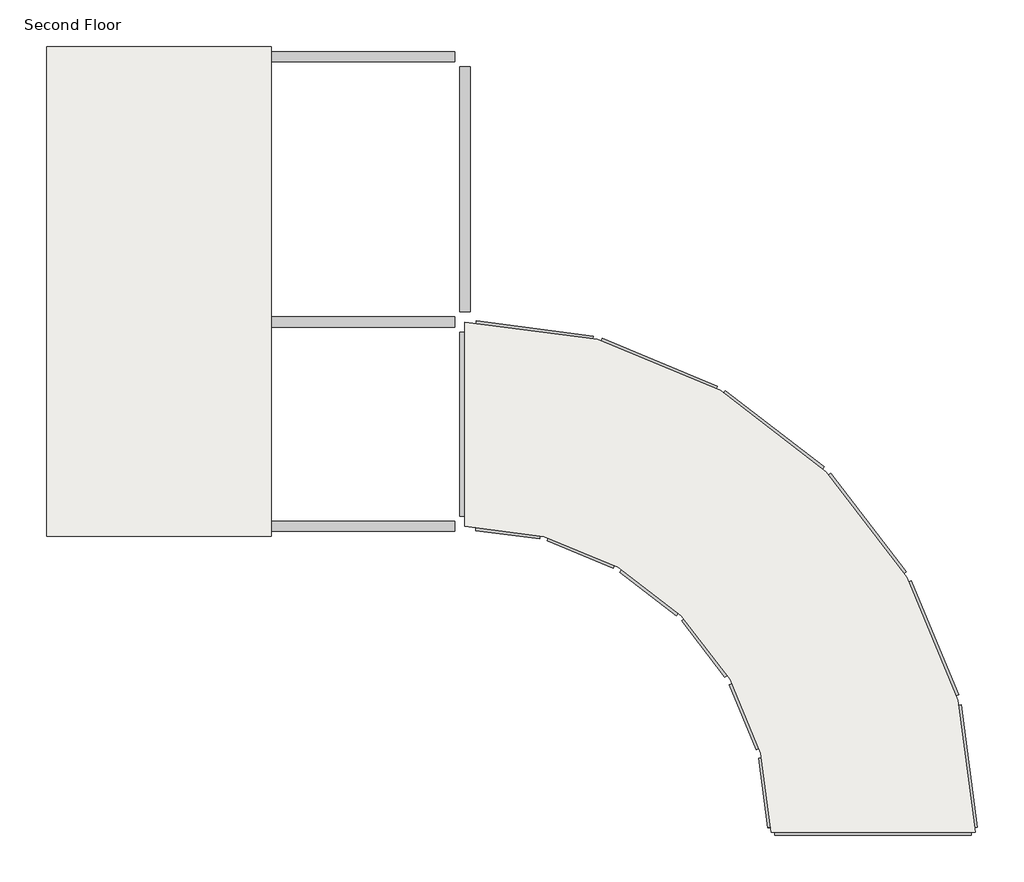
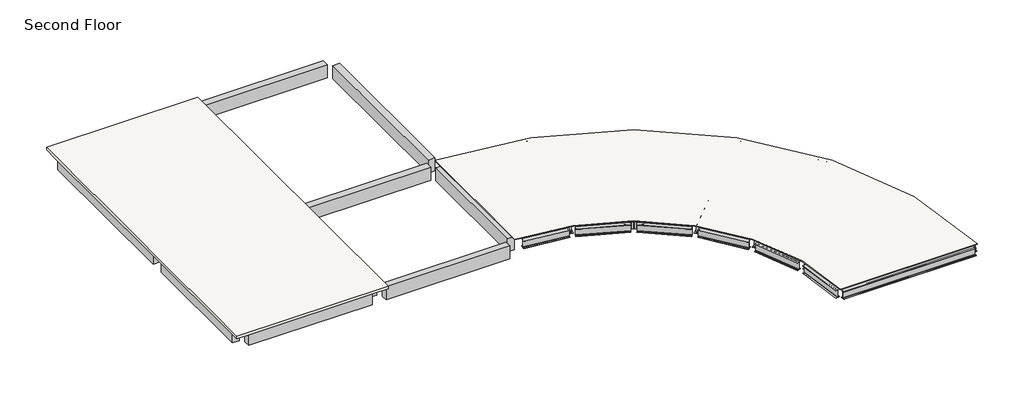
# One storey: 30 beams, 2 slabs.
"""IFC4 building model written with IfcOpenShell, lengths in millimetres."""

from ifc_helpers import new_model, si_unit, frame, origin, place, context, project, spatial, polyline, outline, extrude, faceted_brep, transform, mapped, element, save
from components import w_shapes_w14x30_259210d1, w_shapes_w14x30_ed609655, w_shapes_w14x30_53f6a439, w_shapes_w14x30_1f0b7ad3, w_shapes_w14x30_c194f466, w_shapes_w14x30_2e50e1af, w_shapes_w14x30_4de1113a, w_shapes_w14x30_27a744b6, w_shapes_w14x30_ed6d0ebe, w_shapes_w14x30_ff060446

model = new_model("IFC4")

# Units and contexts
model_context = context("Model", 3, world=origin())
ifc_project = project(units=[si_unit("LENGTHUNIT", "METRE", prefix="MILLI")], contexts=[model_context])

# Site, building, storey
site = spatial("IfcSite", under=ifc_project)
building = spatial("IfcBuilding", under=site)
storey = spatial("IfcBuildingStorey", under=building, Name="Second Floor", Elevation=3048.0)

# Beams
placement = place(None, origin())
element("IfcBeam", 1, ObjectType="Concrete-Rectangular Beam : 12 x 24", at=placement, inside=storey, context=model_context, shape_type="SweptSolid", body=[
    extrude(outline(polyline([(-20530.7327416, 10007.1181497), (-20530.7327416, 9702.3181497), (-26017.1327416, 9702.3181497), (-26017.1327416, 10007.1181497), (-20530.7327416, 10007.1181497)])), frame((0.0, 0.0, 2438.4), z_axis=(0.0, 0.0, 1.0), x_axis=(1.0, 0.0, 0.0)), (0.0, 0.0, 1.0), 609.6),
])
element("IfcBeam", 2, ObjectType="Concrete-Rectangular Beam : 12 x 24", at=placement, inside=storey, context=model_context, shape_type="SweptSolid", body=[
    extrude(outline(polyline([(-26626.7327416, 10007.1181497), (-26626.7327416, 9702.3181497), (-32113.1327416, 9702.3181497), (-32113.1327416, 10007.1181497), (-26626.7327416, 10007.1181497)])), frame((0.0, 0.0, 2438.4), z_axis=(0.0, 0.0, 1.0), x_axis=(1.0, 0.0, 0.0)), (0.0, 0.0, 1.0), 609.6),
])
element("IfcBeam", 3, ObjectType="Concrete-Rectangular Beam : 12 x 24", at=placement, inside=storey, context=model_context, shape_type="SweptSolid", body=[
    extrude(outline(polyline([(-20530.7327416, -4013.6818503), (-20530.7327416, -4318.4818503), (-26017.1327416, -4318.4818503), (-26017.1327416, -4013.6818503), (-20530.7327416, -4013.6818503)])), frame((0.0, 0.0, 2438.4), z_axis=(0.0, 0.0, 1.0), x_axis=(1.0, 0.0, 0.0)), (0.0, 0.0, 1.0), 609.6),
])
element("IfcBeam", 4, ObjectType="Concrete-Rectangular Beam : 12 x 24", at=placement, inside=storey, context=model_context, shape_type="SweptSolid", body=[
    extrude(outline(polyline([(-26626.7327416, -4013.6818503), (-26626.7327416, -4318.4818503), (-32113.1327416, -4318.4818503), (-32113.1327416, -4013.6818503), (-26626.7327416, -4013.6818503)])), frame((0.0, 0.0, 2438.4), z_axis=(0.0, 0.0, 1.0), x_axis=(1.0, 0.0, 0.0)), (0.0, 0.0, 1.0), 609.6),
])
element("IfcBeam", 5, ObjectType="Concrete-Rectangular Beam : 12 x 24", at=placement, inside=storey, context=model_context, shape_type="SweptSolid", body=[
    extrude(outline(polyline([(-20530.7327416, 2082.3181497), (-20530.7327416, 1777.5181497), (-26017.1327416, 1777.5181497), (-26017.1327416, 2082.3181497), (-20530.7327416, 2082.3181497)])), frame((0.0, 0.0, 2438.4), z_axis=(0.0, 0.0, 1.0), x_axis=(1.0, 0.0, 0.0)), (0.0, 0.0, 1.0), 609.6),
])
element("IfcBeam", 6, ObjectType="Concrete-Rectangular Beam : 12 x 24", at=placement, inside=storey, context=model_context, shape_type="SweptSolid", body=[
    extrude(outline(polyline([(-26626.7327416, 2082.3181497), (-26626.7327416, 1777.5181497), (-32113.1327416, 1777.5181497), (-32113.1327416, 2082.3181497), (-26626.7327416, 2082.3181497)])), frame((0.0, 0.0, 2438.4), z_axis=(0.0, 0.0, 1.0), x_axis=(1.0, 0.0, 0.0)), (0.0, 0.0, 1.0), 609.6),
])
element("IfcBeam", 7, ObjectType="Concrete-Rectangular Beam : 12 x 24", at=placement, inside=storey, context=model_context, shape_type="SweptSolid", body=[
    extrude(outline(polyline([(-20073.5327416, -3861.2818503), (-20378.3327416, -3861.2818503), (-20378.3327416, 1625.1181497), (-20073.5327416, 1625.1181497), (-20073.5327416, -3861.2818503)])), frame((0.0, 0.0, 2438.4), z_axis=(0.0, 0.0, 1.0), x_axis=(1.0, 0.0, 0.0)), (0.0, 0.0, 1.0), 609.6),
])
element("IfcBeam", 8, ObjectType="Concrete-Rectangular Beam : 12 x 24", at=placement, inside=storey, context=model_context, shape_type="SweptSolid", body=[
    extrude(outline(polyline([(-20073.5327416, 2234.7181497), (-20378.3327416, 2234.7181497), (-20378.3327416, 9549.9181497), (-20073.5327416, 9549.9181497), (-20073.5327416, 2234.7181497)])), frame((0.0, 0.0, 2438.4), z_axis=(0.0, 0.0, 1.0), x_axis=(1.0, 0.0, 0.0)), (0.0, 0.0, 1.0), 609.6),
])
element("IfcBeam", 9, ObjectType="Concrete-Rectangular Beam : 12 x 24", at=placement, inside=storey, context=model_context, shape_type="SweptSolid", body=[
    extrude(outline(polyline([(-26169.5327416, 2234.7181497), (-26474.3327416, 2234.7181497), (-26474.3327416, 9549.9181497), (-26169.5327416, 9549.9181497), (-26169.5327416, 2234.7181497)])), frame((0.0, 0.0, 2438.4), z_axis=(0.0, 0.0, 1.0), x_axis=(1.0, 0.0, 0.0)), (0.0, 0.0, 1.0), 609.6),
])
element("IfcBeam", 10, ObjectType="Concrete-Rectangular Beam : 12 x 24", at=placement, inside=storey, context=model_context, shape_type="SweptSolid", body=[
    extrude(outline(polyline([(-26169.5327416, -3861.2818503), (-26474.3327416, -3861.2818503), (-26474.3327416, 1625.1181497), (-26169.5327416, 1625.1181497), (-26169.5327416, -3861.2818503)])), frame((0.0, 0.0, 2438.4), z_axis=(0.0, 0.0, 1.0), x_axis=(1.0, 0.0, 0.0)), (0.0, 0.0, 1.0), 609.6),
])
element("IfcBeam", 11, ObjectType="Concrete-Rectangular Beam : 12 x 24", at=placement, inside=storey, context=model_context, shape_type="SweptSolid", body=[
    extrude(outline(polyline([(-32265.5327416, 2234.7181497), (-32570.3327416, 2234.7181497), (-32570.3327416, 9549.9181497), (-32265.5327416, 9549.9181497), (-32265.5327416, 2234.7181497)])), frame((0.0, 0.0, 2438.4), z_axis=(0.0, 0.0, 1.0), x_axis=(1.0, 0.0, 0.0)), (0.0, 0.0, 1.0), 609.6),
])
element("IfcBeam", 12, ObjectType="Concrete-Rectangular Beam : 12 x 24", at=placement, inside=storey, context=model_context, shape_type="SweptSolid", body=[
    extrude(outline(polyline([(-32265.5327416, -3861.2818503), (-32570.3327416, -3861.2818503), (-32570.3327416, 1625.1181497), (-32265.5327416, 1625.1181497), (-32265.5327416, -3861.2818503)])), frame((0.0, 0.0, 2438.4), z_axis=(0.0, 0.0, 1.0), x_axis=(1.0, 0.0, 0.0)), (0.0, 0.0, 1.0), 609.6),
])
w_shapes_w14x30_shape = w_shapes_w14x30_259210d1(model_context)
element("IfcBeam", 13, ObjectType="W Shapes : W14X30", at=placement, inside=storey, context=model_context, shape_type="MappedRepresentation", body=[
    mapped(w_shapes_w14x30_shape, transform((-8033.9327416, -13310.0818503, 2872.74), x_axis=(1.0, 0.0, 0.0), y_axis=(0.0, 1.0, 0.0), z_axis=(0.0, 0.0, 1.0))),
])
element("IfcBeam", 14, ObjectType="W Shapes : W14X30", at=placement, inside=storey, context=model_context, shape_type="MappedRepresentation", body=[
    mapped(w_shapes_w14x30_shape, transform((-9667.3510187, -7214.0818503, 2872.74), x_axis=(0.8660254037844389, 0.49999999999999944, 0.0), y_axis=(-0.49999999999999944, 0.8660254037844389, 0.0), z_axis=(0.0, 0.0, 1.0))),
])
element("IfcBeam", 15, ObjectType="W Shapes : W14X30", at=placement, inside=storey, context=model_context, shape_type="MappedRepresentation", body=[
    mapped(w_shapes_w14x30_shape, transform((-8449.3650675, -10154.5600525, 2872.74), x_axis=(0.9659258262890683, 0.2588190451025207, 0.0), y_axis=(-0.2588190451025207, 0.9659258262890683, 0.0), z_axis=(0.0, 0.0, 1.0))),
])
w_shapes_w14x30_2_shape = w_shapes_w14x30_ed609655(model_context)
element("IfcBeam", 16, ObjectType="W Shapes : W14X30", at=placement, inside=storey, context=model_context, shape_type="MappedRepresentation", body=[
    mapped(w_shapes_w14x30_2_shape, transform((-17070.4109437, -1533.5141762, 2872.74), x_axis=(0.25881904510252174, 0.9659258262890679, 0.0), y_axis=(-0.9659258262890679, 0.25881904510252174, 0.0), z_axis=(0.0, 0.0, 1.0))),
])
element("IfcBeam", 17, ObjectType="W Shapes : W14X30", at=placement, inside=storey, context=model_context, shape_type="MappedRepresentation", body=[
    mapped(w_shapes_w14x30_2_shape, transform((-14129.9327416, -2751.5001274, 2872.74), x_axis=(0.5000000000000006, 0.8660254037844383, 0.0), y_axis=(-0.8660254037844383, 0.5000000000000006, 0.0), z_axis=(0.0, 0.0, 1.0))),
])
element("IfcBeam", 18, ObjectType="W Shapes : W14X30", at=placement, inside=storey, context=model_context, shape_type="MappedRepresentation", body=[
    mapped(w_shapes_w14x30_2_shape, transform((-11604.8868654, -4689.0359741, 2872.74), x_axis=(0.7071067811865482, 0.7071067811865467, 0.0), y_axis=(-0.7071067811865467, 0.7071067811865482, 0.0), z_axis=(0.0, 0.0, 1.0))),
])
w_shapes_w14x30_3_shape = w_shapes_w14x30_53f6a439(model_context)
element("IfcBeam", 19, ObjectType="W Shapes : W14X30", at=placement, inside=storey, context=model_context, shape_type="MappedRepresentation", body=[
    mapped(w_shapes_w14x30_3_shape, transform((-19042.6120674, -4321.8689726, 2872.74), x_axis=(0.991444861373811, -0.13052619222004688, 0.0), y_axis=(0.13052619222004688, 0.991444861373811, 0.0), z_axis=(0.0, 0.0, 1.0))),
])
w_shapes_w14x30_4_shape = w_shapes_w14x30_1f0b7ad3(model_context)
element("IfcBeam", 20, ObjectType="W Shapes : W14X30", at=placement, inside=storey, context=model_context, shape_type="MappedRepresentation", body=[
    mapped(w_shapes_w14x30_4_shape, transform((-16756.6120674, -4934.4008264, 2872.74), x_axis=(0.9238795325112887, -0.38268343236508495, 0.0), y_axis=(0.38268343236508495, 0.9238795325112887, 0.0), z_axis=(0.0, 0.0, 1.0))),
])
element("IfcBeam", 21, ObjectType="W Shapes : W14X30", at=placement, inside=storey, context=model_context, shape_type="MappedRepresentation", body=[
    mapped(w_shapes_w14x30_4_shape, transform((-14707.040538, -6117.7215007, 2872.74), x_axis=(0.7933533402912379, -0.6087614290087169, 0.0), y_axis=(0.6087614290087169, 0.7933533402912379, 0.0), z_axis=(0.0, 0.0, 1.0))),
])
w_shapes_w14x30_5_shape = w_shapes_w14x30_c194f466(model_context)
element("IfcBeam", 22, ObjectType="W Shapes : W14X30", at=placement, inside=storey, context=model_context, shape_type="MappedRepresentation", body=[
    mapped(w_shapes_w14x30_5_shape, transform((-13033.5723919, -7791.1896468, 2872.74), x_axis=(0.6087614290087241, -0.7933533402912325, 0.0), y_axis=(0.7933533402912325, 0.6087614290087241, 0.0), z_axis=(0.0, 0.0, 1.0))),
])
w_shapes_w14x30_6_shape = w_shapes_w14x30_2e50e1af(model_context)
element("IfcBeam", 23, ObjectType="W Shapes : W14X30", at=placement, inside=storey, context=model_context, shape_type="MappedRepresentation", body=[
    mapped(w_shapes_w14x30_6_shape, transform((-11850.2517177, -9840.7611761, 2872.74), x_axis=(0.3826834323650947, -0.9238795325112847, 0.0), y_axis=(0.9238795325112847, 0.3826834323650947, 0.0), z_axis=(0.0, 0.0, 1.0))),
])
element("IfcBeam", 24, ObjectType="W Shapes : W14X30", at=placement, inside=storey, context=model_context, shape_type="MappedRepresentation", body=[
    mapped(w_shapes_w14x30_6_shape, transform((-11237.7198638, -12126.7611761, 2872.74), x_axis=(0.13052619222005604, -0.9914448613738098, 0.0), y_axis=(0.9914448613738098, 0.13052619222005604, 0.0), z_axis=(0.0, 0.0, 1.0))),
])
w_shapes_w14x30_7_shape = w_shapes_w14x30_4de1113a(model_context)
element("IfcBeam", 25, ObjectType="W Shapes : W14X30", at=placement, inside=storey, context=model_context, shape_type="MappedRepresentation", body=[
    mapped(w_shapes_w14x30_7_shape, transform((-18253.7316179, 1670.272946, 2872.74), x_axis=(0.991444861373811, -0.13052619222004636, 0.0), y_axis=(0.13052619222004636, 0.991444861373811, 0.0), z_axis=(0.0, 0.0, 1.0))),
])
w_shapes_w14x30_8_shape = w_shapes_w14x30_27a744b6(model_context)
element("IfcBeam", 26, ObjectType="W Shapes : W14X30", at=placement, inside=storey, context=model_context, shape_type="MappedRepresentation", body=[
    mapped(w_shapes_w14x30_8_shape, transform((-14443.7316179, 649.3865228, 2872.74), x_axis=(0.923879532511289, -0.3826834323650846, 0.0), y_axis=(0.3826834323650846, 0.923879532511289, 0.0), z_axis=(0.0, 0.0, 1.0))),
])
element("IfcBeam", 27, ObjectType="W Shapes : W14X30", at=placement, inside=storey, context=model_context, shape_type="MappedRepresentation", body=[
    mapped(w_shapes_w14x30_8_shape, transform((-11027.779069, -1322.8146009, 2872.74), x_axis=(0.7933533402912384, -0.6087614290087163, 0.0), y_axis=(0.6087614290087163, 0.7933533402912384, 0.0), z_axis=(0.0, 0.0, 1.0))),
])
w_shapes_w14x30_9_shape = w_shapes_w14x30_ed6d0ebe(model_context)
element("IfcBeam", 28, ObjectType="W Shapes : W14X30", at=placement, inside=storey, context=model_context, shape_type="MappedRepresentation", body=[
    mapped(w_shapes_w14x30_9_shape, transform((-8238.6654921, -4111.9281777, 2872.74), x_axis=(0.6087614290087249, -0.7933533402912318, 0.0), y_axis=(0.7933533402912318, 0.6087614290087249, 0.0), z_axis=(0.0, 0.0, 1.0))),
])
w_shapes_w14x30_10_shape = w_shapes_w14x30_ff060446(model_context)
element("IfcBeam", 29, ObjectType="W Shapes : W14X30", at=placement, inside=storey, context=model_context, shape_type="MappedRepresentation", body=[
    mapped(w_shapes_w14x30_10_shape, transform((-6266.4643684, -7527.8807267, 2872.74), x_axis=(0.3826834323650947, -0.9238795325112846, 0.0), y_axis=(0.9238795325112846, 0.3826834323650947, 0.0), z_axis=(0.0, 0.0, 1.0))),
])
element("IfcBeam", 30, ObjectType="W Shapes : W14X30", at=placement, inside=storey, context=model_context, shape_type="MappedRepresentation", body=[
    mapped(w_shapes_w14x30_10_shape, transform((-5245.5779453, -11337.8807267, 2872.74), x_axis=(0.13052619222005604, -0.9914448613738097, 0.0), y_axis=(0.9914448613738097, 0.13052619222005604, 0.0), z_axis=(0.0, 0.0, 1.0))),
])

# Slabs
element("IfcSlab", 31, ObjectType="1 1/2\" Metal Roof Deck", at=placement, inside=storey, context=model_context, shape_type="SweptSolid", body=[
    extrude(outline(polyline([(-20225.9327416, 1929.9181497), (-16281.5304942, 1410.6277423), (-12605.9327416, -111.8546967), (-9449.6253963, -2533.7745051), (-7027.7055879, -5690.0818503), (-5505.223149, -9365.679603), (-4985.9327416, -13310.0818503), (-11081.9327416, -13310.0818503), (-11393.506986, -10943.4405019), (-12306.9964494, -8738.0818503), (-13760.1483344, -6844.2974432), (-15653.9327416, -5391.1455581), (-17859.2913932, -4477.6560948), (-20225.9327416, -4166.0818503), (-20225.9327416, 1929.9181497)])), frame((0.0, 0.0, 3130.55), z_axis=(0.0, 0.0, 1.0), x_axis=(1.0, 0.0, 0.0)), (0.0, 0.0, 1.0), 38.1),
])
element("IfcSlab", 32, ObjectType="LW Concrete on Metal Deck", at=placement, inside=storey, context=model_context, shape_type="Brep", body=[
    faceted_brep([(-26017.1327416, 10159.5181497, 3048.0), (-26017.1327416, 9549.9181497, 3048.0), (-26017.1327416, 2234.7181497, 3048.0), (-26017.1327416, 1625.1181497, 3048.0), (-26017.1327416, -3861.2818503, 3048.0), (-26017.1327416, -4470.8818503, 3048.0), (-26626.7327416, -4470.8818503, 3048.0), (-32113.1327416, -4470.8818503, 3048.0), (-32722.7327416, -4470.8818503, 3048.0), (-32722.7327416, -3861.2818503, 3048.0), (-32722.7327416, 1625.1181497, 3048.0), (-32722.7327416, 2234.7181497, 3048.0), (-32722.7327416, 9549.9181497, 3048.0), (-32722.7327416, 10159.5181497, 3048.0), (-32113.1327416, 10159.5181497, 3048.0), (-26626.7327416, 10159.5181497, 3048.0), (-26017.1327416, 10159.5181497, 3168.65), (-32722.7327416, 10159.5181497, 3168.65), (-32722.7327416, -4470.8818503, 3168.65), (-26017.1327416, -4470.8818503, 3168.65)], [[[0, 1, 2, 3, 4, 5, 6, 7, 8, 9, 10, 11, 12, 13, 14, 15]], [[16, 17, 18, 19]], [[5, 4, 3, 2, 1, 0, 16, 19]], [[8, 7, 6, 5, 19, 18]], [[13, 12, 11, 10, 9, 8, 18, 17]], [[0, 15, 14, 13, 17, 16]]]),
])

save(model, "model.ifc")
